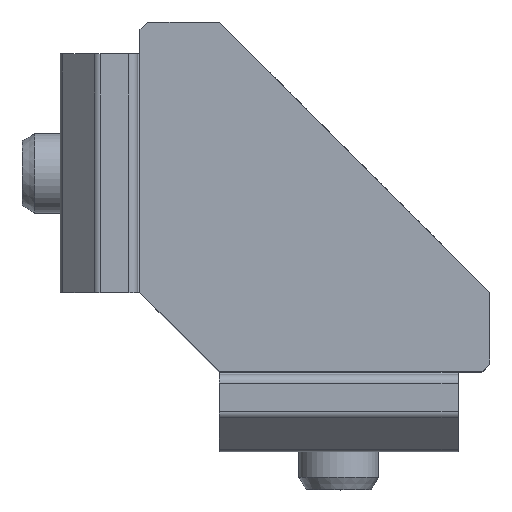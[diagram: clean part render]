
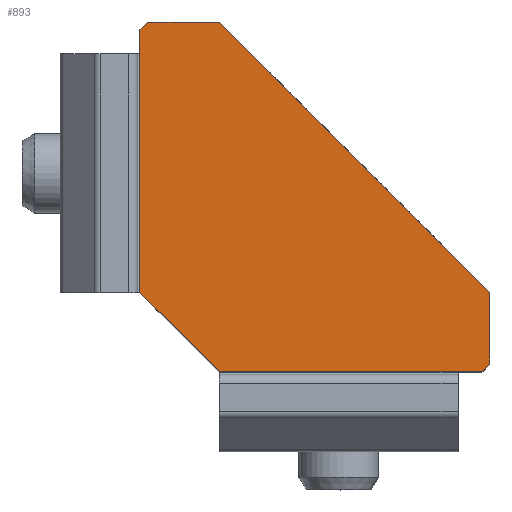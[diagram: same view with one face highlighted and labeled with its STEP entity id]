
A CAD part, top view. The second image highlights one B-rep face of the part: STEP entity #893.
In plain terms, the highlighted planar face has unit normal (0, 0, 1).
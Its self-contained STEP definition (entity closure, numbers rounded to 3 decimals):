
#893=ADVANCED_FACE('',(#1721),#1722,.T.);
#1721=FACE_OUTER_BOUND('',#2510,.T.);
#1722=PLANE('',#2511);
#2510=EDGE_LOOP('',(#4922,#4923,#4924,#4925,#4926,#4927,#4928,#4929));
#2511=AXIS2_PLACEMENT_3D('',#4930,#4931,#4932);
#4922=ORIENTED_EDGE('',*,*,#5919,.T.);
#4923=ORIENTED_EDGE('',*,*,#5923,.T.);
#4924=ORIENTED_EDGE('',*,*,#5894,.T.);
#4925=ORIENTED_EDGE('',*,*,#5924,.T.);
#4926=ORIENTED_EDGE('',*,*,#5910,.T.);
#4927=ORIENTED_EDGE('',*,*,#5925,.T.);
#4928=ORIENTED_EDGE('',*,*,#5904,.T.);
#4929=ORIENTED_EDGE('',*,*,#5901,.T.);
#4930=CARTESIAN_POINT('',(-6.297,-15.203,16.0));
#4931=DIRECTION('',(0.,0.,1.0));
#4932=DIRECTION('',(0.707,-0.707,0.));
#5894=EDGE_CURVE('',#7324,#7325,#7326,.T.);
#5901=EDGE_CURVE('',#7338,#7336,#7339,.T.);
#5904=EDGE_CURVE('',#7342,#7338,#7343,.T.);
#5910=EDGE_CURVE('',#7353,#7351,#7354,.T.);
#5919=EDGE_CURVE('',#7336,#7363,#7365,.T.);
#5923=EDGE_CURVE('',#7363,#7324,#7370,.F.);
#5924=EDGE_CURVE('',#7325,#7353,#7371,.F.);
#5925=EDGE_CURVE('',#7351,#7342,#7372,.F.);
#7324=VERTEX_POINT('',#9381);
#7325=VERTEX_POINT('',#9382);
#7326=LINE('',#9383,#9384);
#7336=VERTEX_POINT('',#9398);
#7338=VERTEX_POINT('',#9401);
#7339=LINE('',#9402,#9403);
#7342=VERTEX_POINT('',#9407);
#7343=LINE('',#9408,#9409);
#7351=VERTEX_POINT('',#9420);
#7353=VERTEX_POINT('',#9423);
#7354=LINE('',#9424,#9425);
#7363=VERTEX_POINT('',#9439);
#7365=LINE('',#9442,#9443);
#7370=LINE('',#9448,#9449);
#7371=LINE('',#9450,#9451);
#7372=LINE('',#9452,#9453);
#9381=CARTESIAN_POINT('',(-21.5,0.0,16.0));
#9382=CARTESIAN_POINT('',(-9.833,-11.667,16.0));
#9383=CARTESIAN_POINT('',(-21.854,0.354,16.0));
#9384=VECTOR('',#10582,1.0);
#9398=CARTESIAN_POINT('',(-18.318,3.889,16.0));
#9401=CARTESIAN_POINT('',(5.724,3.889,16.0));
#9402=CARTESIAN_POINT('',(5.724,3.889,16.0));
#9403=VECTOR('',#10588,1.0);
#9407=CARTESIAN_POINT('',(8.906,0.707,16.0));
#9408=CARTESIAN_POINT('',(9.259,0.354,16.0));
#9409=VECTOR('',#10590,1.0);
#9420=CARTESIAN_POINT('',(8.906,0.,16.0));
#9423=CARTESIAN_POINT('',(-2.762,-11.667,16.0));
#9424=CARTESIAN_POINT('',(-6.297,-15.203,16.0));
#9425=VECTOR('',#10595,1.0);
#9439=CARTESIAN_POINT('',(-21.5,0.707,16.0));
#9442=CARTESIAN_POINT('',(-18.318,3.889,16.0));
#9443=VECTOR('',#10602,1.0);
#9448=CARTESIAN_POINT('',(-21.5,-15.203,16.0));
#9449=VECTOR('',#10606,1.0);
#9450=CARTESIAN_POINT('',(-6.297,-11.667,16.0));
#9451=VECTOR('',#10607,1.0);
#9452=CARTESIAN_POINT('',(8.906,-15.203,16.0));
#9453=VECTOR('',#10608,1.0);
#10582=DIRECTION('',(0.707,-0.707,0.));
#10588=DIRECTION('',(-1.0,0.0,0.));
#10590=DIRECTION('',(-0.707,0.707,0.));
#10595=DIRECTION('',(0.707,0.707,0.));
#10602=DIRECTION('',(-0.707,-0.707,0.));
#10606=DIRECTION('',(0.,1.0,0.));
#10607=DIRECTION('',(-1.0,0.0,0.));
#10608=DIRECTION('',(0.,-1.0,0.));
